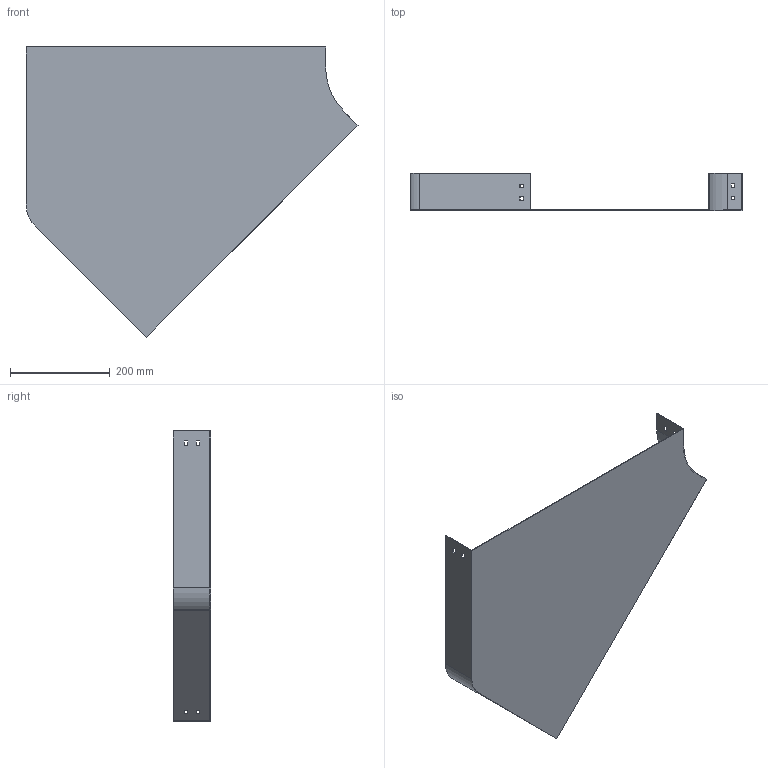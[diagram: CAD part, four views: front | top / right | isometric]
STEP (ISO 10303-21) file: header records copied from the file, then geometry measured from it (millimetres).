
FILE_DESCRIPTION (( 'STEP AP214' ), '1' );
FILE_NAME ('P4_607.step', '2025-07-16T09:20:00', ( '' ), ( '' ), 'SwSTEP 2.0', 'SolidWorks 2023', '' );
FILE_SCHEMA (( 'AUTOMOTIVE_DESIGN' ));
Length unit declared in the file: millimetre
Products named in the file (1): P4_607
Bounding box: 664.9 x 75 x 580.94 mm (x, y, z)
Volume: 482796 mm3; surface area: 647661.2 mm2
Topology: 1 solids, 1 shells, 50 faces, 144 edges, 96 vertices
Faces by surface type: plane 46, cylinder 4
Entity records: 1671 total; most frequent: CARTESIAN_POINT 291, ORIENTED_EDGE 288, DIRECTION 254, EDGE_CURVE 144, LINE 136, VECTOR 136, VERTEX_POINT 96, EDGE_LOOP 66
